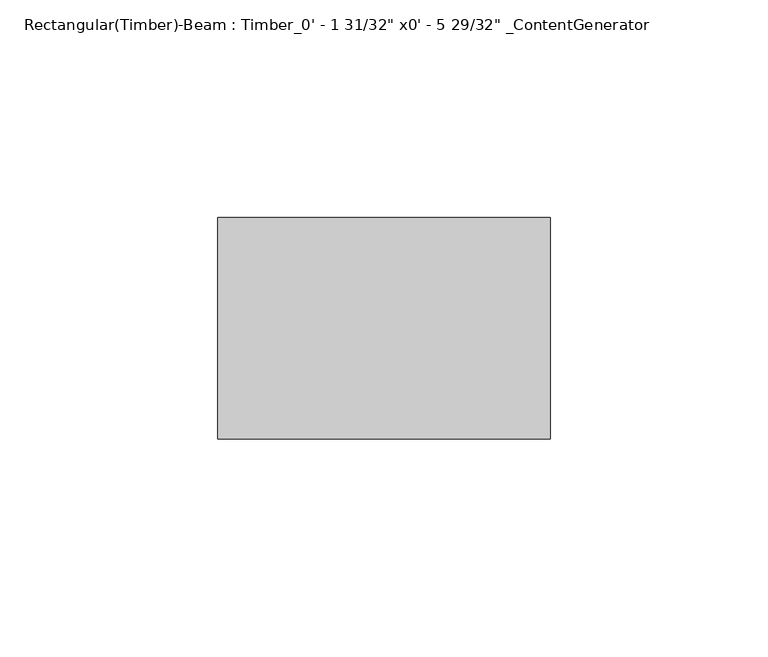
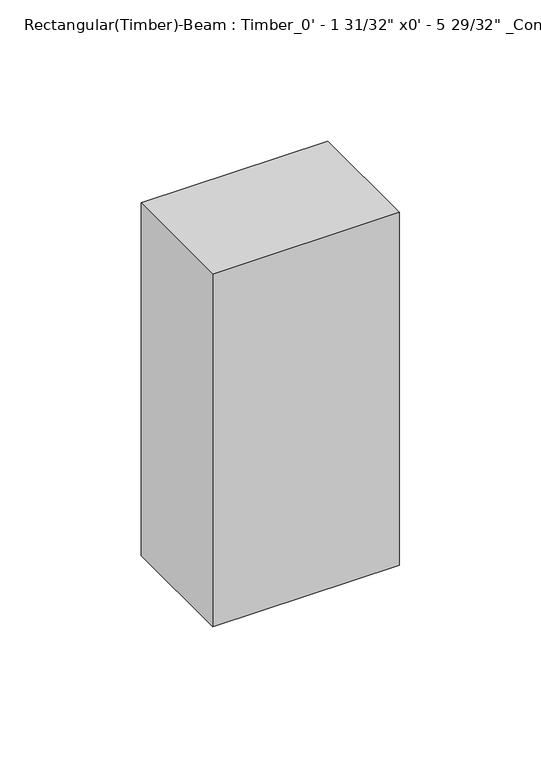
"""IFC4 building model written with IfcOpenShell, lengths in millimetres: beam geometry."""

from ifc_helpers import new_model, si_unit, frame, origin, place, context, project, spatial, polyline, outline, extrude, source, transform, mapped, element, save


def beam_b8da4116(model_context):
    return source(origin(), model_context, "Body", "SweptSolid", [
        extrude(outline(polyline([(25.4075, 25.4), (25.4075, -25.4), (-50.8074994, -25.4), (-50.8074994, 25.4), (25.4075, 25.4)])), frame((0.0, 0.0, -76.2), z_axis=(0.0, 0.0, 1.0), x_axis=(1.0, 0.0, 0.0)), (0.0, 0.0, 1.0), 152.4),
    ])


if __name__ == "__main__":
    model = new_model("IFC4")
    model_context = context("Model", 3, world=origin())
    ifc_project = project(units=[si_unit("LENGTHUNIT", "METRE", prefix="MILLI")], contexts=[model_context])
    site = spatial("IfcSite", under=ifc_project)
    building = spatial("IfcBuilding", under=site)
    placement = place(None, origin())
    beam_shape = beam_b8da4116(model_context)
    element("IfcBeam", 1, ObjectType="Rectangular(Timber)-Beam : Timber_0' - 1 31/32\" x0' - 5 29/32\" _ContentGenerator", at=placement, inside=building, context=model_context, shape_type="MappedRepresentation", body=[
        mapped(beam_shape, transform((0.0, 0.0, 0.0), x_axis=(1.0, 0.0, 0.0), y_axis=(0.0, 1.0, 0.0), z_axis=(0.0, 0.0, 1.0))),
    ])
    save(model, "model.ifc")
